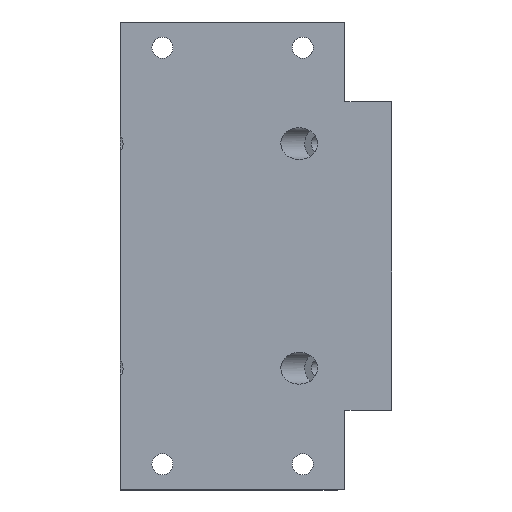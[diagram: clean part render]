
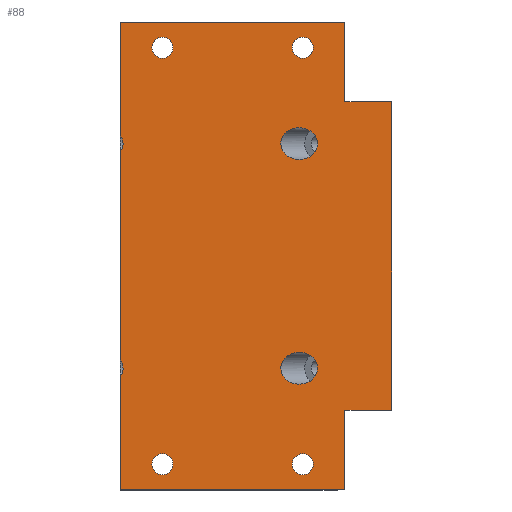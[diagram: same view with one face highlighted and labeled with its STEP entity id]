
A CAD part, top view. The second image highlights one B-rep face of the part: STEP entity #88.
In plain terms, the highlighted planar face has unit normal (0, 0, 1).
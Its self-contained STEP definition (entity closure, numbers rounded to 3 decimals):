
#24 = VERTEX_POINT('',#25);
#25 = CARTESIAN_POINT('',(29.,33.,0.));
#40 = VERTEX_POINT('',#41);
#41 = CARTESIAN_POINT('',(19.,33.,0.));
#47 = EDGE_CURVE('',#40,#24,#48,.T.);
#48 = LINE('',#49,#50);
#49 = CARTESIAN_POINT('',(-29.,33.,0.));
#50 = VECTOR('',#51,1.);
#51 = DIRECTION('',(1.,0.,0.));
#64 = VERTEX_POINT('',#65);
#65 = CARTESIAN_POINT('',(29.,-33.,0.));
#78 = EDGE_CURVE('',#64,#24,#79,.T.);
#79 = LINE('',#80,#81);
#80 = CARTESIAN_POINT('',(29.,-33.,0.));
#81 = VECTOR('',#82,1.);
#82 = DIRECTION('',(0.,1.,0.));
#88 = ADVANCED_FACE('',(#89,#191,#202,#213,#224,#235,#246),#257,.T.);
#89 = FACE_BOUND('',#90,.T.);
#90 = EDGE_LOOP('',(#91,#101,#109,#117,#123,#124,#125,#133,#141,#149,
    #158,#167,#175,#184));
#91 = ORIENTED_EDGE('',*,*,#92,.F.);
#92 = EDGE_CURVE('',#93,#95,#97,.T.);
#93 = VERTEX_POINT('',#94);
#94 = CARTESIAN_POINT('',(-29.,-50.,0.));
#95 = VERTEX_POINT('',#96);
#96 = CARTESIAN_POINT('',(-29.,-25.799,0.));
#97 = LINE('',#98,#99);
#98 = CARTESIAN_POINT('',(-29.,-50.,0.));
#99 = VECTOR('',#100,1.);
#100 = DIRECTION('',(0.,1.,0.));
#101 = ORIENTED_EDGE('',*,*,#102,.T.);
#102 = EDGE_CURVE('',#93,#103,#105,.T.);
#103 = VERTEX_POINT('',#104);
#104 = CARTESIAN_POINT('',(19.,-50.,0.));
#105 = LINE('',#106,#107);
#106 = CARTESIAN_POINT('',(-29.,-50.,0.));
#107 = VECTOR('',#108,1.);
#108 = DIRECTION('',(1.,0.,0.));
#109 = ORIENTED_EDGE('',*,*,#110,.T.);
#110 = EDGE_CURVE('',#103,#111,#113,.T.);
#111 = VERTEX_POINT('',#112);
#112 = CARTESIAN_POINT('',(19.,-33.,0.));
#113 = LINE('',#114,#115);
#114 = CARTESIAN_POINT('',(19.,-50.,0.));
#115 = VECTOR('',#116,1.);
#116 = DIRECTION('',(0.,1.,0.));
#117 = ORIENTED_EDGE('',*,*,#118,.T.);
#118 = EDGE_CURVE('',#111,#64,#119,.T.);
#119 = LINE('',#120,#121);
#120 = CARTESIAN_POINT('',(-29.,-33.,0.));
#121 = VECTOR('',#122,1.);
#122 = DIRECTION('',(1.,0.,0.));
#123 = ORIENTED_EDGE('',*,*,#78,.T.);
#124 = ORIENTED_EDGE('',*,*,#47,.F.);
#125 = ORIENTED_EDGE('',*,*,#126,.T.);
#126 = EDGE_CURVE('',#40,#127,#129,.T.);
#127 = VERTEX_POINT('',#128);
#128 = CARTESIAN_POINT('',(19.,50.,0.));
#129 = LINE('',#130,#131);
#130 = CARTESIAN_POINT('',(19.,28.,0.));
#131 = VECTOR('',#132,1.);
#132 = DIRECTION('',(0.,1.,0.));
#133 = ORIENTED_EDGE('',*,*,#134,.F.);
#134 = EDGE_CURVE('',#135,#127,#137,.T.);
#135 = VERTEX_POINT('',#136);
#136 = CARTESIAN_POINT('',(-29.,50.,0.));
#137 = LINE('',#138,#139);
#138 = CARTESIAN_POINT('',(-29.,50.,0.));
#139 = VECTOR('',#140,1.);
#140 = DIRECTION('',(1.,0.,0.));
#141 = ORIENTED_EDGE('',*,*,#142,.F.);
#142 = EDGE_CURVE('',#143,#135,#145,.T.);
#143 = VERTEX_POINT('',#144);
#144 = CARTESIAN_POINT('',(-29.,25.799,0.));
#145 = LINE('',#146,#147);
#146 = CARTESIAN_POINT('',(-29.,-50.,0.));
#147 = VECTOR('',#148,1.);
#148 = DIRECTION('',(0.,1.,0.));
#149 = ORIENTED_EDGE('',*,*,#150,.F.);
#150 = EDGE_CURVE('',#151,#143,#153,.T.);
#151 = VERTEX_POINT('',#152);
#152 = CARTESIAN_POINT('',(-28.406,24.,0.));
#153 = ELLIPSE('',#154,3.926,3.4);
#154 = AXIS2_PLACEMENT_3D('',#155,#156,#157);
#155 = CARTESIAN_POINT('',(-32.332,24.,0.));
#156 = DIRECTION('',(0.,0.,1.));
#157 = DIRECTION('',(1.,0.,0.));
#158 = ORIENTED_EDGE('',*,*,#159,.F.);
#159 = EDGE_CURVE('',#160,#151,#162,.T.);
#160 = VERTEX_POINT('',#161);
#161 = CARTESIAN_POINT('',(-29.,22.201,0.));
#162 = ELLIPSE('',#163,3.926,3.4);
#163 = AXIS2_PLACEMENT_3D('',#164,#165,#166);
#164 = CARTESIAN_POINT('',(-32.332,24.,0.));
#165 = DIRECTION('',(0.,0.,1.));
#166 = DIRECTION('',(1.,0.,0.));
#167 = ORIENTED_EDGE('',*,*,#168,.F.);
#168 = EDGE_CURVE('',#169,#160,#171,.T.);
#169 = VERTEX_POINT('',#170);
#170 = CARTESIAN_POINT('',(-29.,-22.201,0.));
#171 = LINE('',#172,#173);
#172 = CARTESIAN_POINT('',(-29.,-50.,0.));
#173 = VECTOR('',#174,1.);
#174 = DIRECTION('',(0.,1.,0.));
#175 = ORIENTED_EDGE('',*,*,#176,.F.);
#176 = EDGE_CURVE('',#177,#169,#179,.T.);
#177 = VERTEX_POINT('',#178);
#178 = CARTESIAN_POINT('',(-28.406,-24.,0.));
#179 = ELLIPSE('',#180,3.926,3.4);
#180 = AXIS2_PLACEMENT_3D('',#181,#182,#183);
#181 = CARTESIAN_POINT('',(-32.332,-24.,0.));
#182 = DIRECTION('',(0.,0.,1.));
#183 = DIRECTION('',(1.,0.,0.));
#184 = ORIENTED_EDGE('',*,*,#185,.F.);
#185 = EDGE_CURVE('',#95,#177,#186,.T.);
#186 = ELLIPSE('',#187,3.926,3.4);
#187 = AXIS2_PLACEMENT_3D('',#188,#189,#190);
#188 = CARTESIAN_POINT('',(-32.332,-24.,0.));
#189 = DIRECTION('',(0.,0.,1.));
#190 = DIRECTION('',(1.,0.,0.));
#191 = FACE_BOUND('',#192,.T.);
#192 = EDGE_LOOP('',(#193));
#193 = ORIENTED_EDGE('',*,*,#194,.T.);
#194 = EDGE_CURVE('',#195,#195,#197,.T.);
#195 = VERTEX_POINT('',#196);
#196 = CARTESIAN_POINT('',(-17.75,-44.5,0.));
#197 = CIRCLE('',#198,2.25);
#198 = AXIS2_PLACEMENT_3D('',#199,#200,#201);
#199 = CARTESIAN_POINT('',(-20.,-44.5,0.));
#200 = DIRECTION('',(0.,0.,-1.));
#201 = DIRECTION('',(1.,0.,0.));
#202 = FACE_BOUND('',#203,.T.);
#203 = EDGE_LOOP('',(#204));
#204 = ORIENTED_EDGE('',*,*,#205,.T.);
#205 = EDGE_CURVE('',#206,#206,#208,.T.);
#206 = VERTEX_POINT('',#207);
#207 = CARTESIAN_POINT('',(12.25,-44.5,0.));
#208 = CIRCLE('',#209,2.25);
#209 = AXIS2_PLACEMENT_3D('',#210,#211,#212);
#210 = CARTESIAN_POINT('',(10.,-44.5,0.));
#211 = DIRECTION('',(0.,0.,-1.));
#212 = DIRECTION('',(1.,0.,0.));
#213 = FACE_BOUND('',#214,.T.);
#214 = EDGE_LOOP('',(#215));
#215 = ORIENTED_EDGE('',*,*,#216,.F.);
#216 = EDGE_CURVE('',#217,#217,#219,.T.);
#217 = VERTEX_POINT('',#218);
#218 = CARTESIAN_POINT('',(13.164,-24.,0.));
#219 = ELLIPSE('',#220,3.926,3.4);
#220 = AXIS2_PLACEMENT_3D('',#221,#222,#223);
#221 = CARTESIAN_POINT('',(9.238,-24.,0.));
#222 = DIRECTION('',(0.,0.,1.));
#223 = DIRECTION('',(1.,0.,0.));
#224 = FACE_BOUND('',#225,.T.);
#225 = EDGE_LOOP('',(#226));
#226 = ORIENTED_EDGE('',*,*,#227,.T.);
#227 = EDGE_CURVE('',#228,#228,#230,.T.);
#228 = VERTEX_POINT('',#229);
#229 = CARTESIAN_POINT('',(-17.75,44.5,0.));
#230 = CIRCLE('',#231,2.25);
#231 = AXIS2_PLACEMENT_3D('',#232,#233,#234);
#232 = CARTESIAN_POINT('',(-20.,44.5,0.));
#233 = DIRECTION('',(0.,0.,-1.));
#234 = DIRECTION('',(1.,0.,0.));
#235 = FACE_BOUND('',#236,.T.);
#236 = EDGE_LOOP('',(#237));
#237 = ORIENTED_EDGE('',*,*,#238,.F.);
#238 = EDGE_CURVE('',#239,#239,#241,.T.);
#239 = VERTEX_POINT('',#240);
#240 = CARTESIAN_POINT('',(13.164,24.,0.));
#241 = ELLIPSE('',#242,3.926,3.4);
#242 = AXIS2_PLACEMENT_3D('',#243,#244,#245);
#243 = CARTESIAN_POINT('',(9.238,24.,0.));
#244 = DIRECTION('',(0.,0.,1.));
#245 = DIRECTION('',(1.,0.,0.));
#246 = FACE_BOUND('',#247,.T.);
#247 = EDGE_LOOP('',(#248));
#248 = ORIENTED_EDGE('',*,*,#249,.T.);
#249 = EDGE_CURVE('',#250,#250,#252,.T.);
#250 = VERTEX_POINT('',#251);
#251 = CARTESIAN_POINT('',(12.25,44.5,0.));
#252 = CIRCLE('',#253,2.25);
#253 = AXIS2_PLACEMENT_3D('',#254,#255,#256);
#254 = CARTESIAN_POINT('',(10.,44.5,0.));
#255 = DIRECTION('',(0.,0.,-1.));
#256 = DIRECTION('',(1.,0.,0.));
#257 = PLANE('',#258);
#258 = AXIS2_PLACEMENT_3D('',#259,#260,#261);
#259 = CARTESIAN_POINT('',(-1.076,0.,0.));
#260 = DIRECTION('',(0.,0.,1.));
#261 = DIRECTION('',(1.,0.,0.));
